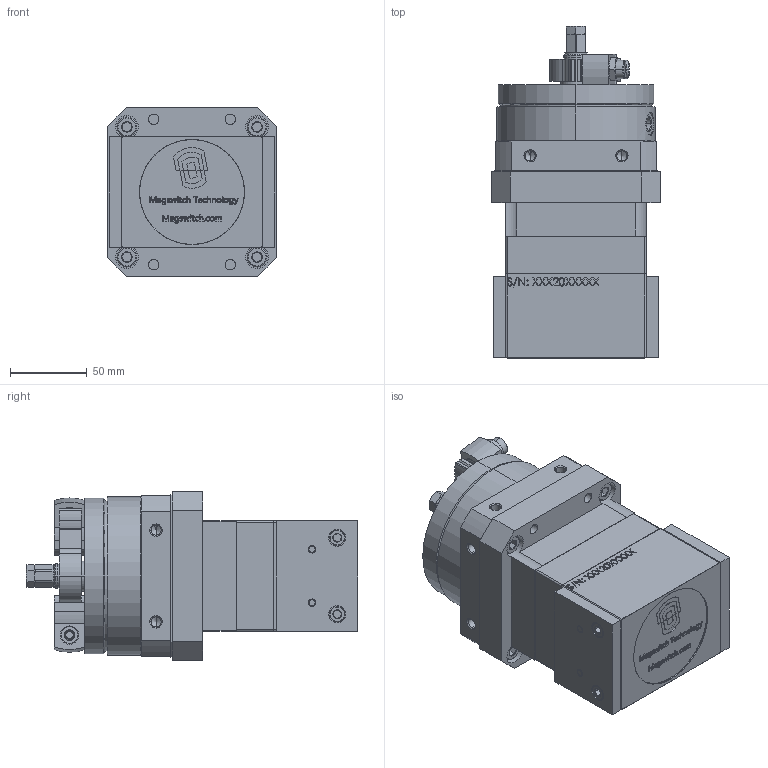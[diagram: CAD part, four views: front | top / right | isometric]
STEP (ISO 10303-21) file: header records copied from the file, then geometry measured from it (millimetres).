
FILE_DESCRIPTION (( 'STEP AP203' ), '1' );
FILE_NAME ('8000320_s.STEP', '2023-07-13T21:17:36', ( '' ), ( '' ), 'SwSTEP 2.0', 'SolidWorks 2022', '' );
FILE_SCHEMA (( 'CONFIG_CONTROL_DESIGN' ));
Products named in the file (1): 8000320_s
Bounding box: 110 x 216.8 x 110 mm (x, y, z)
Volume: 1497446 mm3; surface area: 259056.4 mm2
Topology: 34 solids, 34 shells, 2909 faces, 7661 edges, 4962 vertices
Faces by surface type: plane 1049, cylinder 850, bspline 596, cone 400, torus 14
Entity records: 127950 total; most frequent: CARTESIAN_POINT 62945, ORIENTED_EDGE 15242, DIRECTION 10859, EDGE_CURVE 7621, VERTEX_POINT 4962, LINE 3967, VECTOR 3967, AXIS2_PLACEMENT_3D 3446
